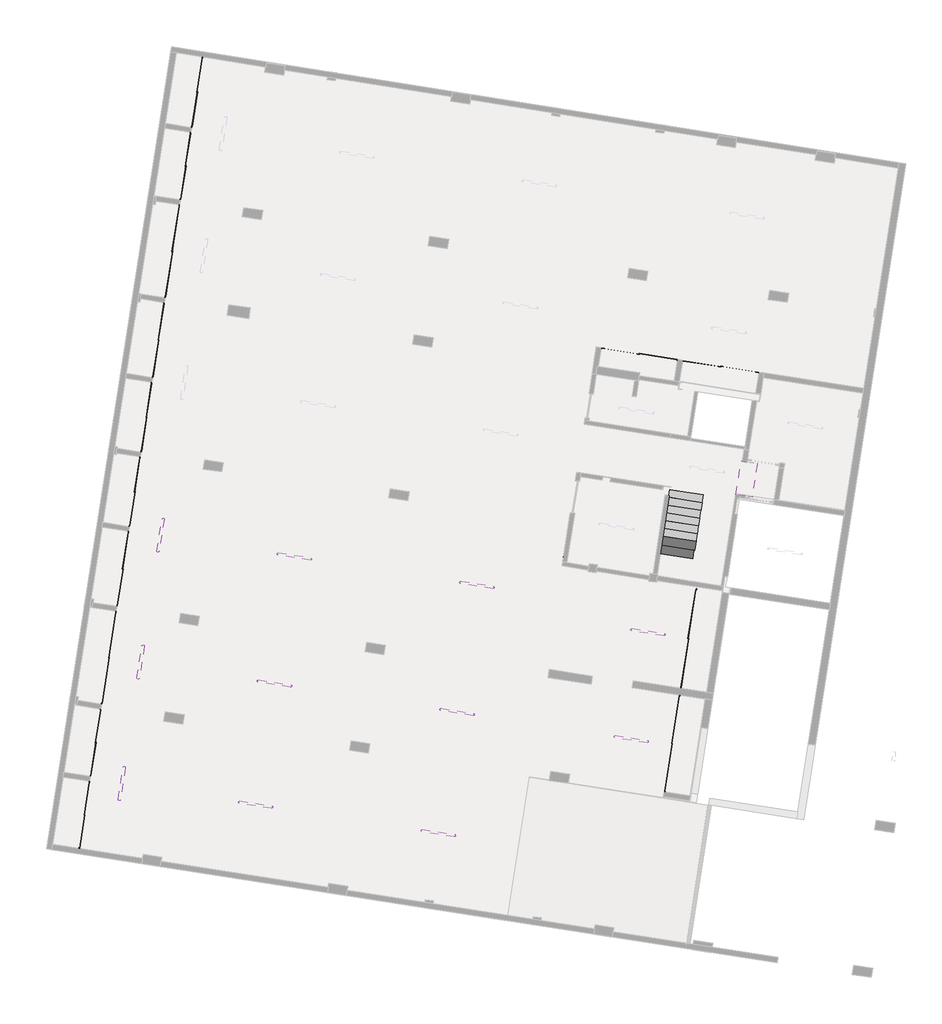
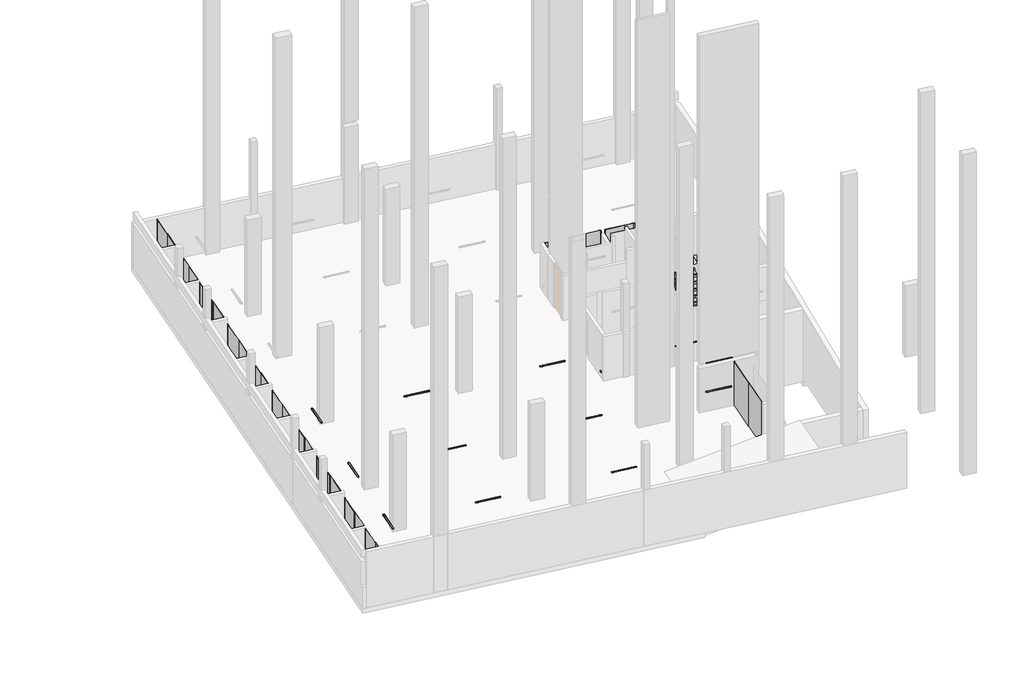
# One storey, part 4 of 5: 14 furniture elements, 11 light fixtures, 2 stair flights, 1 proxy.
"""IFC4 building model written with IfcOpenShell, lengths in millimetres."""

from ifc_helpers import new_model, si_unit, origin, place, context, project, spatial, faceted_brep, transform, mapped, element, save
from components import contacto_exterior_doble_contacto_3b9dc114, phl_2_st_2_c3c2574e, pcl9_5e3e3e72, phl_4_st_2_7a90008c, pcl7_e5fcf431, phl_6_st_2_9932728b, phl_7_e46b9a9d, phl_8_st_2_415c95a6, phl_9_st_2_81f4c3ad, light_fixture_530e717e

model = new_model("IFC4")

# Units and contexts
model_context = context("Model", 3, world=origin())
ifc_project = project(units=[si_unit("LENGTHUNIT", "METRE", prefix="MILLI")], contexts=[model_context])

# Site, building, storey
site = spatial("IfcSite", under=ifc_project)
building = spatial("IfcBuilding", under=site)
storey = spatial("IfcBuildingStorey", under=building, Name="SÓTANO 2", Elevation=-5800.0)

# Proxy
placement = place(None, origin())
contacto_exterior_doble_contacto_shape = contacto_exterior_doble_contacto_3b9dc114(model_context)
element("IfcBuildingElementProxy", 1, Name="Contacto exterior doble : Contacto", ObjectType="Contacto exterior doble : Contacto", at=placement, inside=storey, context=model_context, shape_type="MappedRepresentation", body=[
    mapped(contacto_exterior_doble_contacto_shape, transform((-36829.5374354, -68623.7162609, -5800.0), x_axis=(0.15400987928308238, 0.9880693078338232, 0.0), y_axis=(-0.9880693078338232, 0.15400987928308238, 0.0), z_axis=(0.0, 0.0, 1.0))),
])

# Furniture
phl_2_st_2_shape = phl_2_st_2_c3c2574e(model_context)
element("IfcFurniture", 2, ObjectType="Puerta Closet corre 2 hojas : PHL-2/ST-2", at=placement, inside=storey, context=model_context, shape_type="MappedRepresentation", body=[
    mapped(phl_2_st_2_shape, transform((-52010.2510819, -60991.7202905, -5800.0), x_axis=(-0.15400987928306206, -0.9880693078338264, 0.0), y_axis=(0.9880693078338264, -0.15400987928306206, 0.0), z_axis=(0.0, 0.0, 1.0))),
])
element("IfcFurniture", 3, ObjectType="Puerta Closet corre 2 hojas : PHL-2/ST-2", at=placement, inside=storey, context=model_context, shape_type="MappedRepresentation", body=[
    mapped(phl_2_st_2_shape, transform((-53326.9525465, -69439.1803551, -5800.0), x_axis=(-0.15400987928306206, -0.9880693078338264, 0.0), y_axis=(0.9880693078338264, -0.15400987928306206, 0.0), z_axis=(0.0, 0.0, 1.0))),
])
pcl9_shape = pcl9_5e3e3e72(model_context)
element("IfcFurniture", 4, ObjectType="Puerta Closet corre 2 hojas : PHL-3 ST-2", at=placement, inside=storey, context=model_context, shape_type="MappedRepresentation", body=[
    mapped(pcl9_shape, transform((-52454.1638054, -63839.696924, -5800.0), x_axis=(-0.15400987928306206, -0.9880693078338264, 0.0), y_axis=(0.9880693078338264, -0.15400987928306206, 0.0), z_axis=(0.0, 0.0, 1.0))),
])
element("IfcFurniture", 5, ObjectType="Puerta Closet corre 2 hojas : PHL-3 ST-2", at=placement, inside=storey, context=model_context, shape_type="MappedRepresentation", body=[
    mapped(pcl9_shape, transform((-52882.6755483, -66588.866673, -5800.0), x_axis=(-0.15400987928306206, -0.9880693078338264, 0.0), y_axis=(0.9880693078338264, -0.15400987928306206, 0.0), z_axis=(0.0, 0.0, 1.0))),
])
phl_4_st_2_shape = phl_4_st_2_7a90008c(model_context)
element("IfcFurniture", 6, ObjectType="Puerta Closet corre 2 hojas : PHL-4/ST-2", at=placement, inside=storey, context=model_context, shape_type="MappedRepresentation", body=[
    mapped(phl_4_st_2_shape, transform((-51499.708332, -57716.270535, -5800.0), x_axis=(-0.15400987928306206, -0.9880693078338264, 0.0), y_axis=(0.9880693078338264, -0.15400987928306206, 0.0), z_axis=(0.0, 0.0, 1.0))),
])
element("IfcFurniture", 7, ObjectType="Puerta Closet corre 2 hojas : PHL-4/ST-2", at=placement, inside=storey, context=model_context, shape_type="MappedRepresentation", body=[
    mapped(phl_4_st_2_shape, transform((-53837.4952963, -72714.6301106, -5800.0), x_axis=(-0.15400987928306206, -0.9880693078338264, 0.0), y_axis=(0.9880693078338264, -0.15400987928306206, 0.0), z_axis=(0.0, 0.0, 1.0))),
])
pcl7_shape = pcl7_e5fcf431(model_context)
element("IfcFurniture", 8, ObjectType="Puerta Closet corre 2 hojas : PHL-5 /ST-2", at=placement, inside=storey, context=model_context, shape_type="MappedRepresentation", body=[
    mapped(pcl7_shape, transform((-54326.4766633, -75851.7501646, -5800.0), x_axis=(-0.15400987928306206, -0.9880693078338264, 0.0), y_axis=(0.9880693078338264, -0.15400987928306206, 0.0), z_axis=(0.0, 0.0, 1.0))),
])
element("IfcFurniture", 9, ObjectType="Puerta Closet corre 2 hojas : PHL-5 /ST-2", at=placement, inside=storey, context=model_context, shape_type="MappedRepresentation", body=[
    mapped(pcl7_shape, transform((-54742.3033431, -78519.5373327, -5800.0), x_axis=(-0.15400987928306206, -0.9880693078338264, 0.0), y_axis=(0.9880693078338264, -0.15400987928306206, 0.0), z_axis=(0.0, 0.0, 1.0))),
])
element("IfcFurniture", 10, ObjectType="Puerta Closet corre 2 hojas : PHL-5 /ST-2", at=placement, inside=storey, context=model_context, shape_type="MappedRepresentation", body=[
    mapped(pcl7_shape, transform((-51010.7269667, -54579.1504917, -5800.0), x_axis=(-0.15400987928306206, -0.9880693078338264, 0.0), y_axis=(0.9880693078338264, -0.15400987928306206, 0.0), z_axis=(0.0, 0.0, 1.0))),
])
phl_6_st_2_shape = phl_6_st_2_9932728b(model_context)
element("IfcFurniture", 11, ObjectType="Puerta Closet corre 2 hojas : PHL-6/ST-2", at=placement, inside=storey, context=model_context, shape_type="MappedRepresentation", body=[
    mapped(phl_6_st_2_shape, transform((-50585.8060093, -51853.0178679, -5800.0), x_axis=(-0.15400987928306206, -0.9880693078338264, 0.0), y_axis=(0.9880693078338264, -0.15400987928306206, 0.0), z_axis=(0.0, 0.0, 1.0))),
])
phl_7_shape = phl_7_e46b9a9d(model_context)
element("IfcFurniture", 12, ObjectType="Puerta Closet corre 2 hojas : PHL-7/ST-2", at=placement, inside=storey, context=model_context, shape_type="MappedRepresentation", body=[
    mapped(phl_7_shape, transform((-32096.4216525, -70972.1816689, -5800.0), x_axis=(0.15400987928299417, 0.9880693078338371, 0.0), y_axis=(-0.9880693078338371, 0.15400987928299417, 0.0), z_axis=(0.0, 0.0, 1.0))),
])
phl_8_st_2_shape = phl_8_st_2_415c95a6(model_context)
element("IfcFurniture", 13, ObjectType="Puerta Closet corre 2 hojas : PHL-8/ST-2", at=placement, inside=storey, context=model_context, shape_type="MappedRepresentation", body=[
    mapped(phl_8_st_2_shape, transform((-32699.3703338, -74840.4730914, -5800.0), x_axis=(0.1540098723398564, 0.9880693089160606, 0.0), y_axis=(-0.9880693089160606, 0.1540098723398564, 0.0), z_axis=(0.0, 0.0, 1.0))),
])
phl_9_st_2_shape = phl_9_st_2_81f4c3ad(model_context)
element("IfcFurniture", 14, ObjectType="Puerta Closet corre 2 hojas : PHL-9/ST-2", at=placement, inside=storey, context=model_context, shape_type="MappedRepresentation", body=[
    mapped(phl_9_st_2_shape, transform((-33567.2932005, -61167.5490875, -5800.0), x_axis=(0.988069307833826, -0.1540098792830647, 0.0), y_axis=(0.1540098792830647, 0.988069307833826, 0.0), z_axis=(0.0, 0.0, 1.0))),
])
element("IfcFurniture", 15, ObjectType="Puerta Closet corre 2 hojas : PHL-9/ST-2", at=placement, inside=storey, context=model_context, shape_type="MappedRepresentation", body=[
    mapped(phl_9_st_2_shape, transform((-30563.5625047, -61635.7391205, -5800.0), x_axis=(0.988069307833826, -0.1540098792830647, 0.0), y_axis=(0.1540098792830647, 0.988069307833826, 0.0), z_axis=(0.0, 0.0, 1.0))),
])

# Light fixtures
light_fixture_shape = light_fixture_530e717e(model_context)
element("IfcLightFixture", 16, ObjectType="Lumin techo_fluorescente : Luminarias bajo locales", at=placement, inside=storey, context=model_context, shape_type="MappedRepresentation", body=[
    mapped(light_fixture_shape, transform((-40079.8659185, -69510.3464703, -5090.0), x_axis=(-0.9880693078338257, 0.1540098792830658, 0.0), y_axis=(-0.15400987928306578, -0.9880693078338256, 0.0), z_axis=(0.0, 0.0, 0.9999999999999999))),
])
element("IfcLightFixture", 17, ObjectType="Lumin techo_fluorescente : Luminarias bajo locales", at=placement, inside=storey, context=model_context, shape_type="MappedRepresentation", body=[
    mapped(light_fixture_shape, transform((-40810.6220299, -74198.6021102, -5090.0), x_axis=(-0.9880693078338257, 0.1540098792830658, 0.0), y_axis=(-0.15400987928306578, -0.9880693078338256, 0.0), z_axis=(0.0, 0.0, 0.9999999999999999))),
])
element("IfcLightFixture", 18, ObjectType="Lumin techo_fluorescente : Luminarias bajo locales", at=placement, inside=storey, context=model_context, shape_type="MappedRepresentation", body=[
    mapped(light_fixture_shape, transform((-41507.5167338, -78669.6157291, -5090.0), x_axis=(-0.9880693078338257, 0.1540098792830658, 0.0), y_axis=(-0.15400987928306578, -0.9880693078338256, 0.0), z_axis=(0.0, 0.0, 0.9999999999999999))),
])
element("IfcLightFixture", 19, ObjectType="Lumin techo_fluorescente : Luminarias bajo locales", at=placement, inside=storey, context=model_context, shape_type="MappedRepresentation", body=[
    mapped(light_fixture_shape, transform((-46818.4985972, -68459.9990937, -5090.0), x_axis=(-0.9880693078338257, 0.1540098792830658, 0.0), y_axis=(-0.15400987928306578, -0.9880693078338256, 0.0), z_axis=(0.0, 0.0, 0.9999999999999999))),
])
element("IfcLightFixture", 20, ObjectType="Lumin techo_fluorescente : Luminarias bajo locales", at=placement, inside=storey, context=model_context, shape_type="MappedRepresentation", body=[
    mapped(light_fixture_shape, transform((-47549.2547086, -73148.2547336, -5090.0), x_axis=(-0.9880693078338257, 0.1540098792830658, 0.0), y_axis=(-0.15400987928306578, -0.9880693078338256, 0.0), z_axis=(0.0, 0.0, 0.9999999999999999))),
])
element("IfcLightFixture", 21, ObjectType="Lumin techo_fluorescente : Luminarias bajo locales", at=placement, inside=storey, context=model_context, shape_type="MappedRepresentation", body=[
    mapped(light_fixture_shape, transform((-48246.1494125, -77619.2683526, -5090.0), x_axis=(-0.9880693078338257, 0.1540098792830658, 0.0), y_axis=(-0.15400987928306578, -0.9880693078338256, 0.0), z_axis=(0.0, 0.0, 0.9999999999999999))),
])
element("IfcLightFixture", 22, ObjectType="Lumin techo_fluorescente : Luminarias bajo locales", at=placement, inside=storey, context=model_context, shape_type="MappedRepresentation", body=[
    mapped(light_fixture_shape, transform((-33773.2870938, -71254.7996966, -5090.0), x_axis=(-0.9880693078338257, 0.1540098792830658, 0.0), y_axis=(-0.15400987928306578, -0.9880693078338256, 0.0), z_axis=(0.0, 0.0, 0.9999999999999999))),
])
element("IfcLightFixture", 23, ObjectType="Lumin techo_fluorescente : Luminarias bajo locales", at=placement, inside=storey, context=model_context, shape_type="MappedRepresentation", body=[
    mapped(light_fixture_shape, transform((-34388.1715283, -75199.6663257, -5090.0), x_axis=(-0.9880693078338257, 0.1540098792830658, 0.0), y_axis=(-0.15400987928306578, -0.9880693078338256, 0.0), z_axis=(0.0, 0.0, 0.9999999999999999))),
])
element("IfcLightFixture", 24, ObjectType="Lumin techo_fluorescente : Luminarias bajo locales", at=placement, inside=storey, context=model_context, shape_type="MappedRepresentation", body=[
    mapped(light_fixture_shape, transform((-51756.5349876, -67675.1286578, -5090.0), x_axis=(-0.15400987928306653, -0.9880693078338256, 0.0), y_axis=(0.9880693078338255, -0.1540098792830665, 0.0), z_axis=(0.0, 0.0, 0.9999999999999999))),
])
element("IfcLightFixture", 25, ObjectType="Lumin techo_fluorescente : Luminarias bajo locales", at=placement, inside=storey, context=model_context, shape_type="MappedRepresentation", body=[
    mapped(light_fixture_shape, transform((-52486.5210495, -72358.4439511, -5090.0), x_axis=(-0.15400987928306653, -0.9880693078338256, 0.0), y_axis=(0.9880693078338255, -0.1540098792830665, 0.0), z_axis=(0.0, 0.0, 0.9999999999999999))),
])
element("IfcLightFixture", 26, ObjectType="Lumin techo_fluorescente : Luminarias bajo locales", at=placement, inside=storey, context=model_context, shape_type="MappedRepresentation", body=[
    mapped(light_fixture_shape, transform((-53184.1858028, -76834.3979166, -5090.0), x_axis=(-0.15400987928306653, -0.9880693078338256, 0.0), y_axis=(0.9880693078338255, -0.1540098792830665, 0.0), z_axis=(0.0, 0.0, 0.9999999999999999))),
])

# Stair flights
element("IfcStairFlight", 27, ObjectType="Huellas: 40 mm Mamperlanes: 30 mm Contrahuellas: 15 mm", at=placement, inside=storey, context=model_context, shape_type="Brep", body=[
    faceted_brep([(-31808.8960721, -66508.6466005, -5665.0), (-31764.2332071, -66222.1065012, -5665.0), (-32949.9163765, -66037.2946461, -5665.0), (-32994.5792415, -66323.8347454, -5665.0), (-31808.8960721, -66508.6466005, -5800.0), (-31764.2332071, -66222.1065012, -5800.0), (-32949.9163765, -66037.2946461, -5800.0), (-32994.5792415, -66323.8347454, -5800.0), (-31853.5589371, -66795.1866998, -5490.0), (-31808.8960721, -66508.6466005, -5490.0), (-32994.5792415, -66323.8347454, -5490.0), (-33039.2421065, -66610.3748446, -5490.0), (-31853.5589371, -66795.1866998, -5665.1952368), (-31819.1545546, -66574.4611556, -5800.0), (-33004.837724, -66389.6493004, -5800.0), (-33039.2421065, -66610.3748446, -5665.1952368), (-31898.2218021, -67081.726799, -5315.0), (-31853.5589371, -66795.1866998, -5315.0), (-33039.2421065, -66610.3748446, -5315.0), (-33083.9049715, -66896.9149439, -5315.0), (-31898.2218021, -67081.726799, -5490.1952368), (-33083.9049715, -66896.9149439, -5490.1952368), (-31942.8846671, -67368.2668983, -5140.0), (-31898.2218021, -67081.726799, -5140.0), (-33083.9049715, -66896.9149439, -5140.0), (-33128.5678365, -67183.4550432, -5140.0), (-31942.8846671, -67368.2668983, -5315.1952368), (-33128.5678365, -67183.4550432, -5315.1952368), (-31987.5475321, -67654.8069976, -4965.0), (-31942.8846671, -67368.2668983, -4965.0), (-33128.5678365, -67183.4550432, -4965.0), (-33173.2307015, -67469.9951424, -4965.0), (-31987.5475321, -67654.8069976, -5140.1952368), (-33173.2307015, -67469.9951424, -5140.1952368), (-32032.2103971, -67941.3470969, -4790.0), (-31987.5475321, -67654.8069976, -4790.0), (-33173.2307015, -67469.9951424, -4790.0), (-33217.8935665, -67756.5352417, -4790.0), (-32032.2103971, -67941.3470969, -4965.1952368), (-33217.8935665, -67756.5352417, -4965.1952368), (-32076.8732621, -68227.8871961, -4615.0), (-32032.2103971, -67941.3470969, -4615.0), (-33217.8935665, -67756.5352417, -4615.0), (-33256.3960363, -68003.5525687, -4615.0), (-33262.5564315, -68043.075341, -4615.0), (-32076.8732621, -68227.8871961, -4790.1952368), (-33256.3960363, -68003.5525687, -4814.3331678), (-32005.2682968, -68158.0822468, -4440.0), (-32019.8320539, -68251.5178209, -4440.0), (-32079.1162289, -68242.2772255, -4440.0), (-32076.8732621, -68227.8871961, -4440.0), (-33262.5564315, -68043.075341, -4440.0), (-33313.6495334, -68370.8694154, -4440.0), (-33449.6112535, -69243.1485398, -4440.0), (-31018.9607397, -69622.0128454, -4440.0), (-30825.7455225, -68382.4168743, -4440.0), (-30819.5851273, -68342.894102, -4440.0), (-32005.2682968, -68158.0822468, -4590.0), (-32019.8320539, -68251.5178209, -4590.0), (-32079.1162289, -68242.2772255, -4590.0), (-33262.5564315, -68043.075341, -4790.1952368), (-33313.6495334, -68370.8694154, -4590.0), (-33449.6112535, -69243.1485398, -4590.0), (-32005.2682968, -68158.0822468, -4265.0), (-30819.5851273, -68342.894102, -4265.0), (-30813.1548904, -68301.6401269, -4265.0), (-30774.9222624, -68056.3540027, -4265.0), (-31960.6054318, -67871.5421476, -4265.0), (-31998.8380598, -68116.8282717, -4265.0), (-31960.6054318, -67871.5421476, -4440.1952368), (-31998.8380598, -68116.8282717, -4590.0), (-31915.9425668, -67585.0020483, -4090.0), (-31960.6054318, -67871.5421476, -4090.0), (-30774.9222624, -68056.3540027, -4090.0), (-30730.2593974, -67769.8139034, -4090.0), (-31915.9425668, -67585.0020483, -4265.1952368), (-30774.9222624, -68056.3540027, -4440.1952368), (-30730.2593974, -67769.8139034, -4265.1952368), (-31871.2797018, -67298.461949, -3915.0), (-31915.9425668, -67585.0020483, -3915.0), (-30730.2593974, -67769.8139034, -3915.0), (-30685.5965324, -67483.2738042, -3915.0), (-31871.2797018, -67298.461949, -4090.1952368), (-30685.5965324, -67483.2738042, -4090.1952368), (-31826.6168368, -67011.9218497, -3740.0), (-31871.2797018, -67298.461949, -3740.0), (-30685.5965324, -67483.2738042, -3740.0), (-30640.9336674, -67196.7337049, -3740.0), (-31826.6168368, -67011.9218497, -3915.1952368), (-30640.9336674, -67196.7337049, -3915.1952368), (-31781.9539718, -66725.3817505, -3565.0), (-31826.6168368, -67011.9218497, -3565.0), (-30640.9336674, -67196.7337049, -3565.0), (-30596.2708024, -66910.1936056, -3565.0), (-31781.9539718, -66725.3817505, -3740.1952368), (-30596.2708024, -66910.1936056, -3740.1952368), (-31737.2911068, -66438.8416512, -3390.0), (-31781.9539718, -66725.3817505, -3390.0), (-30596.2708024, -66910.1936056, -3390.0), (-30551.6079374, -66623.6535063, -3390.0), (-31737.2911068, -66438.8416512, -3565.1952368), (-30551.6079374, -66623.6535063, -3565.1952368), (-31692.6282418, -66152.3015519, -3215.0), (-31737.2911068, -66438.8416512, -3215.0), (-30551.6079374, -66623.6535063, -3215.0), (-30506.9450724, -66337.1134071, -3215.0), (-31692.6282418, -66152.3015519, -3390.1952368), (-30506.9450724, -66337.1134071, -3390.1952368), (-32127.966364, -68555.6812705, -4590.0), (-30813.1548904, -68301.6401269, -4590.0), (-30819.5851273, -68342.894102, -4590.0), (-30825.7455225, -68382.4168743, -4590.0), (-31018.9607397, -69622.0128454, -4590.0)], [[[0, 1, 2, 3]], [[1, 0, 4, 5]], [[2, 1, 5, 6]], [[3, 2, 6, 7]], [[8, 9, 10, 11]], [[4, 0, 9, 8, 12, 13]], [[0, 3, 10, 9]], [[3, 7, 14, 15, 11, 10]], [[16, 17, 18, 19]], [[17, 16, 20, 12, 8]], [[8, 11, 18, 17]], [[19, 18, 11, 15, 21]], [[22, 23, 24, 25]], [[23, 22, 26, 20, 16]], [[16, 19, 24, 23]], [[25, 24, 19, 21, 27]], [[28, 29, 30, 31]], [[29, 28, 32, 26, 22]], [[22, 25, 30, 29]], [[31, 30, 25, 27, 33]], [[34, 35, 36, 37]], [[35, 34, 38, 32, 28]], [[28, 31, 36, 35]], [[37, 36, 31, 33, 39]], [[40, 41, 42, 43, 44]], [[41, 40, 45, 38, 34]], [[34, 37, 42, 41]], [[43, 42, 37, 39, 46]], [[47, 48, 49, 50, 51, 52, 53, 54, 55, 56]], [[48, 47, 57, 58]], [[49, 48, 58, 59]], [[40, 44, 51, 50]], [[51, 44, 60, 61, 62, 53, 52]], [[63, 64, 65, 66, 67, 68]], [[47, 63, 68, 67, 69, 70, 57]], [[47, 56, 64, 63]], [[71, 72, 73, 74]], [[72, 71, 75, 69, 67]], [[67, 66, 73, 72]], [[74, 73, 66, 76, 77]], [[78, 79, 80, 81]], [[79, 78, 82, 75, 71]], [[71, 74, 80, 79]], [[81, 80, 74, 77, 83]], [[84, 85, 86, 87]], [[85, 84, 88, 82, 78]], [[78, 81, 86, 85]], [[87, 86, 81, 83, 89]], [[90, 91, 92, 93]], [[91, 90, 94, 88, 84]], [[84, 87, 92, 91]], [[93, 92, 87, 89, 95]], [[96, 97, 98, 99]], [[97, 96, 100, 94, 90]], [[90, 93, 98, 97]], [[99, 98, 93, 95, 101]], [[102, 103, 104, 105]], [[103, 102, 106, 100, 96]], [[96, 99, 104, 103]], [[105, 104, 99, 101, 107]], [[102, 105, 107, 106]], [[5, 4, 13, 14, 7, 6]], [[45, 108, 61, 60, 46, 39, 33, 27, 21, 15, 14, 13, 12, 20, 26, 32, 38]], [[61, 108, 59, 58, 57, 70, 109, 110, 111, 112, 62]], [[109, 70, 69, 75, 82, 88, 94, 100, 106, 107, 101, 95, 89, 83, 77, 76]], [[54, 53, 62, 112]], [[50, 49, 59, 108, 45, 40]], [[55, 54, 112, 111]], [[64, 56, 110, 109, 76, 66, 65]], [[44, 43, 46, 60]], [[56, 55, 111, 110]]]),
    faceted_brep([(-31779.2539929, -66513.2668969, -5625.0), (-31728.4307327, -66187.2040253, -5625.0), (-32973.3980606, -65993.1515774, -5625.0), (-33024.2213208, -66319.214449, -5625.0), (-33001.4957267, -66322.7566762, -5665.0), (-32954.2146938, -66019.4193987, -5665.0), (-31754.698554, -66206.3873921, -5665.0), (-31801.979587, -66509.7246697, -5665.0), (-33024.2213208, -66319.214449, -5675.0), (-33001.4957267, -66322.7566762, -5675.0), (-31801.979587, -66509.7246697, -5675.0), (-31779.2539929, -66513.2668969, -5675.0), (-32973.3980606, -65993.1515774, -5675.0), (-32954.2146938, -66019.4193987, -5675.0), (-31728.4307327, -66187.2040253, -5675.0), (-31754.698554, -66206.3873921, -5675.0)], [[[0, 1, 2, 3]], [[4, 5, 6, 7]], [[0, 3, 8, 9, 4, 7, 10, 11]], [[8, 3, 2, 12]], [[9, 8, 12, 13]], [[4, 9, 13, 5]], [[12, 2, 1, 14]], [[13, 12, 14, 15]], [[5, 13, 15, 6]], [[14, 1, 0, 11]], [[15, 14, 11, 10]], [[6, 15, 10, 7]]]),
    faceted_brep([(-32943.7559814, -65997.7718738, -5675.0), (-32943.7559814, -65997.7718738, -5800.0), (-32949.9163765, -66037.2946461, -5800.0), (-32949.9163765, -66037.2946461, -5675.0), (-31758.072812, -66182.5837289, -5675.0), (-31764.2332071, -66222.1065012, -5675.0), (-31764.2332071, -66222.1065012, -5800.0), (-31758.072812, -66182.5837289, -5800.0)], [[[0, 1, 2, 3]], [[4, 5, 6, 7]], [[1, 0, 4, 7]], [[2, 1, 7, 6]], [[3, 2, 6, 5]], [[0, 3, 5, 4]]]),
    faceted_brep([(-31823.9168579, -66799.8069961, -5450.0), (-31773.0935977, -66473.7441246, -5450.0), (-33018.0609256, -66279.6916767, -5450.0), (-33068.8841858, -66605.7545483, -5450.0), (-33046.1585917, -66609.2967755, -5490.0), (-32998.8775587, -66305.959498, -5490.0), (-31799.361419, -66492.9274914, -5490.0), (-31846.642452, -66796.2647689, -5490.0), (-33068.8841858, -66605.7545483, -5500.0), (-33046.1585917, -66609.2967755, -5500.0), (-31846.642452, -66796.2647689, -5500.0), (-31823.9168579, -66799.8069961, -5500.0), (-33018.0609256, -66279.6916767, -5500.0), (-32998.8775587, -66305.959498, -5500.0), (-31773.0935977, -66473.7441246, -5500.0), (-31799.361419, -66492.9274914, -5500.0)], [[[0, 1, 2, 3]], [[4, 5, 6, 7]], [[0, 3, 8, 9, 4, 7, 10, 11]], [[8, 3, 2, 12]], [[9, 8, 12, 13]], [[4, 9, 13, 5]], [[12, 2, 1, 14]], [[13, 12, 14, 15]], [[5, 13, 15, 6]], [[14, 1, 0, 11]], [[15, 14, 11, 10]], [[6, 15, 10, 7]]]),
    faceted_brep([(-32988.4188464, -66284.311973, -5500.0), (-32988.4188464, -66284.311973, -5625.0), (-32994.5792415, -66323.8347454, -5625.0), (-32994.5792415, -66323.8347454, -5500.0), (-31802.735677, -66469.1238282, -5500.0), (-31808.8960721, -66508.6466005, -5500.0), (-31808.8960721, -66508.6466005, -5625.0), (-31802.735677, -66469.1238282, -5625.0)], [[[0, 1, 2, 3]], [[4, 5, 6, 7]], [[1, 0, 4, 7]], [[2, 1, 7, 6]], [[3, 2, 6, 5]], [[0, 3, 5, 4]]]),
    faceted_brep([(-31868.5797229, -67086.3470954, -5275.0), (-31817.7564627, -66760.2842238, -5275.0), (-33062.7237906, -66566.2317759, -5275.0), (-33113.5470508, -66892.2946475, -5275.0), (-33090.8214567, -66895.8368747, -5315.0), (-33043.5404237, -66592.4995972, -5315.0), (-31844.024284, -66779.4675907, -5315.0), (-31891.305317, -67082.8048682, -5315.0), (-33113.5470508, -66892.2946475, -5325.0), (-33090.8214567, -66895.8368747, -5325.0), (-31891.305317, -67082.8048682, -5325.0), (-31868.5797229, -67086.3470954, -5325.0), (-33062.7237906, -66566.2317759, -5325.0), (-33043.5404237, -66592.4995972, -5325.0), (-31817.7564627, -66760.2842238, -5325.0), (-31844.024284, -66779.4675907, -5325.0)], [[[0, 1, 2, 3]], [[4, 5, 6, 7]], [[0, 3, 8, 9, 4, 7, 10, 11]], [[8, 3, 2, 12]], [[9, 8, 12, 13]], [[4, 9, 13, 5]], [[12, 2, 1, 14]], [[13, 12, 14, 15]], [[5, 13, 15, 6]], [[14, 1, 0, 11]], [[15, 14, 11, 10]], [[6, 15, 10, 7]]]),
    faceted_brep([(-33033.0817114, -66570.8520723, -5325.0), (-33033.0817114, -66570.8520723, -5450.0), (-33039.2421065, -66610.3748446, -5450.0), (-33039.2421065, -66610.3748446, -5325.0), (-31847.398542, -66755.6639275, -5325.0), (-31853.5589371, -66795.1866998, -5325.0), (-31853.5589371, -66795.1866998, -5450.0), (-31847.398542, -66755.6639275, -5450.0)], [[[0, 1, 2, 3]], [[4, 5, 6, 7]], [[1, 0, 4, 7]], [[2, 1, 7, 6]], [[3, 2, 6, 5]], [[0, 3, 5, 4]]]),
    faceted_brep([(-31913.2425879, -67372.8871947, -5100.0), (-31862.4193277, -67046.8243231, -5100.0), (-33107.3866556, -66852.7718752, -5100.0), (-33158.2099158, -67178.8347468, -5100.0), (-33135.4843217, -67182.376974, -5140.0), (-33088.2032887, -66879.0396965, -5140.0), (-31888.687149, -67066.00769, -5140.0), (-31935.968182, -67369.3449675, -5140.0), (-33158.2099158, -67178.8347468, -5150.0), (-33135.4843217, -67182.376974, -5150.0), (-31935.968182, -67369.3449675, -5150.0), (-31913.2425879, -67372.8871947, -5150.0), (-33107.3866556, -66852.7718752, -5150.0), (-33088.2032887, -66879.0396965, -5150.0), (-31862.4193277, -67046.8243231, -5150.0), (-31888.687149, -67066.00769, -5150.0)], [[[0, 1, 2, 3]], [[4, 5, 6, 7]], [[0, 3, 8, 9, 4, 7, 10, 11]], [[8, 3, 2, 12]], [[9, 8, 12, 13]], [[4, 9, 13, 5]], [[12, 2, 1, 14]], [[13, 12, 14, 15]], [[5, 13, 15, 6]], [[14, 1, 0, 11]], [[15, 14, 11, 10]], [[6, 15, 10, 7]]]),
    faceted_brep([(-33077.7445764, -66857.3921716, -5150.0), (-33077.7445764, -66857.3921716, -5275.0), (-33083.9049715, -66896.9149439, -5275.0), (-33083.9049715, -66896.9149439, -5150.0), (-31892.061407, -67042.2040267, -5150.0), (-31898.2218021, -67081.726799, -5150.0), (-31898.2218021, -67081.726799, -5275.0), (-31892.061407, -67042.2040267, -5275.0)], [[[0, 1, 2, 3]], [[4, 5, 6, 7]], [[1, 0, 4, 7]], [[2, 1, 7, 6]], [[3, 2, 6, 5]], [[0, 3, 5, 4]]]),
    faceted_brep([(-31957.9054529, -67659.427294, -4925.0), (-31907.0821927, -67333.3644224, -4925.0), (-33152.0495206, -67139.3119745, -4925.0), (-33202.8727807, -67465.3748461, -4925.0), (-33180.1471867, -67468.9170733, -4965.0), (-33132.8661537, -67165.5797958, -4965.0), (-31933.350014, -67352.5477892, -4965.0), (-31980.631047, -67655.8850667, -4965.0), (-33202.8727807, -67465.3748461, -4975.0), (-33180.1471867, -67468.9170733, -4975.0), (-31980.631047, -67655.8850667, -4975.0), (-31957.9054529, -67659.427294, -4975.0), (-33152.0495206, -67139.3119745, -4975.0), (-33132.8661537, -67165.5797958, -4975.0), (-31907.0821927, -67333.3644224, -4975.0), (-31933.350014, -67352.5477892, -4975.0)], [[[0, 1, 2, 3]], [[4, 5, 6, 7]], [[0, 3, 8, 9, 4, 7, 10, 11]], [[8, 3, 2, 12]], [[9, 8, 12, 13]], [[4, 9, 13, 5]], [[12, 2, 1, 14]], [[13, 12, 14, 15]], [[5, 13, 15, 6]], [[14, 1, 0, 11]], [[15, 14, 11, 10]], [[6, 15, 10, 7]]]),
    faceted_brep([(-33122.4074413, -67143.9322709, -4975.0), (-33122.4074413, -67143.9322709, -5100.0), (-33128.5678365, -67183.4550432, -5100.0), (-33128.5678365, -67183.4550432, -4975.0), (-31936.7242719, -67328.744126, -4975.0), (-31942.8846671, -67368.2668983, -4975.0), (-31942.8846671, -67368.2668983, -5100.0), (-31936.7242719, -67328.744126, -5100.0)], [[[0, 1, 2, 3]], [[4, 5, 6, 7]], [[1, 0, 4, 7]], [[2, 1, 7, 6]], [[3, 2, 6, 5]], [[0, 3, 5, 4]]]),
    faceted_brep([(-32002.5683179, -67945.9673932, -4750.0), (-31951.7450577, -67619.9045217, -4750.0), (-33196.7123856, -67425.8520738, -4750.0), (-33247.5356457, -67751.9149453, -4750.0), (-33224.8100517, -67755.4571726, -4790.0), (-33177.5290187, -67452.1198951, -4790.0), (-31978.012879, -67639.0878885, -4790.0), (-32025.2939119, -67942.425166, -4790.0), (-33247.5356457, -67751.9149453, -4800.0), (-33224.8100517, -67755.4571726, -4800.0), (-32025.2939119, -67942.425166, -4800.0), (-32002.5683179, -67945.9673932, -4800.0), (-33196.7123856, -67425.8520738, -4800.0), (-33177.5290187, -67452.1198951, -4800.0), (-31951.7450577, -67619.9045217, -4800.0), (-31978.012879, -67639.0878885, -4800.0)], [[[0, 1, 2, 3]], [[4, 5, 6, 7]], [[0, 3, 8, 9, 4, 7, 10, 11]], [[8, 3, 2, 12]], [[9, 8, 12, 13]], [[4, 9, 13, 5]], [[12, 2, 1, 14]], [[13, 12, 14, 15]], [[5, 13, 15, 6]], [[14, 1, 0, 11]], [[15, 14, 11, 10]], [[6, 15, 10, 7]]]),
    faceted_brep([(-33167.0703063, -67430.4723701, -4800.0), (-33167.0703063, -67430.4723701, -4925.0), (-33173.2307015, -67469.9951424, -4925.0), (-33173.2307015, -67469.9951424, -4800.0), (-31981.3871369, -67615.2842253, -4800.0), (-31987.5475321, -67654.8069976, -4800.0), (-31987.5475321, -67654.8069976, -4925.0), (-31981.3871369, -67615.2842253, -4925.0)], [[[0, 1, 2, 3]], [[4, 5, 6, 7]], [[1, 0, 4, 7]], [[2, 1, 7, 6]], [[3, 2, 6, 5]], [[0, 3, 5, 4]]]),
    faceted_brep([(-32047.2311829, -68232.5074925, -4575.0), (-31996.4079227, -67906.4446209, -4575.0), (-33241.3752506, -67712.392173, -4575.0), (-33292.1985107, -68038.4550446, -4575.0), (-33269.4729166, -68041.9972718, -4615.0), (-33222.1918837, -67738.6599943, -4615.0), (-32022.675744, -67925.6279878, -4615.0), (-32069.9567769, -68228.9652653, -4615.0), (-33292.1985107, -68038.4550446, -4625.0), (-33269.4729166, -68041.9972718, -4625.0), (-32069.9567769, -68228.9652653, -4625.0), (-32047.2311829, -68232.5074925, -4625.0), (-33241.3752506, -67712.392173, -4625.0), (-31996.4079227, -67906.4446209, -4625.0), (-33222.1918837, -67738.6599943, -4625.0), (-32022.675744, -67925.6279878, -4625.0)], [[[0, 1, 2, 3]], [[4, 5, 6, 7]], [[0, 3, 8, 9, 4, 7, 10, 11]], [[12, 2, 1, 13]], [[14, 12, 13, 15]], [[5, 14, 15, 6]], [[13, 1, 0, 11]], [[15, 13, 11, 10]], [[6, 15, 10, 7]], [[8, 3, 2, 12]], [[9, 8, 12, 14]], [[4, 9, 14, 5]]]),
    faceted_brep([(-33211.7331713, -67717.0124694, -4625.0), (-33211.7331713, -67717.0124694, -4750.0), (-33217.8935665, -67756.5352417, -4750.0), (-33217.8935665, -67756.5352417, -4625.0), (-32026.0500019, -67901.8243245, -4625.0), (-32032.2103971, -67941.3470969, -4625.0), (-32032.2103971, -67941.3470969, -4750.0), (-32026.0500019, -67901.8243245, -4750.0)], [[[0, 1, 2, 3]], [[4, 5, 6, 7]], [[1, 0, 4, 7]], [[2, 1, 7, 6]], [[3, 2, 6, 5]], [[0, 3, 5, 4]]]),
    faceted_brep([(-33256.3960363, -68003.5525687, -4450.0), (-33256.3960363, -68003.5525687, -4575.0), (-33262.5564315, -68043.075341, -4575.0), (-33262.5564315, -68043.075341, -4450.0), (-32070.7128669, -68188.3644238, -4450.0), (-32076.8732621, -68227.8871961, -4450.0), (-32076.8732621, -68227.8871961, -4575.0), (-32070.7128669, -68188.3644238, -4575.0)], [[[0, 1, 2, 3]], [[4, 5, 6, 7]], [[1, 0, 4, 7]], [[2, 1, 7, 6]], [[3, 2, 6, 5]], [[0, 3, 5, 4]]]),
    faceted_brep([(-33483.8736291, -69268.1703227, -4450.0), (-33483.8736291, -69268.1703227, -4400.0), (-33286.0381156, -67998.9322723, -4400.0), (-33286.0381156, -67998.9322723, -4450.0), (-33457.6058078, -69248.9869558, -4450.0), (-33266.8547487, -68025.2000936, -4450.0), (-33457.6058078, -69248.9869558, -4440.0), (-33266.8547487, -68025.2000936, -4440.0), (-33449.6112535, -69243.1485398, -4440.0), (-33261.0163327, -68033.1946479, -4440.0), (-33449.6112535, -69243.1485398, -4400.0), (-33261.0163327, -68033.1946479, -4400.0), (-32070.7128669, -68188.3644238, -4400.0), (-32070.7128669, -68188.3644238, -4450.0), (-32074.2550941, -68211.0900179, -4450.0), (-32074.2550941, -68211.0900179, -4440.0), (-32075.3331633, -68218.0065031, -4440.0), (-32075.3331633, -68218.0065031, -4400.0), (-30993.9389568, -69656.2752211, -4450.0), (-30993.9389568, -69656.2752211, -4400.0), (-31013.1223237, -69630.0073998, -4450.0), (-31013.1223237, -69630.0073998, -4440.0), (-31018.9607397, -69622.0128454, -4440.0), (-31018.9607397, -69622.0128454, -4400.0), (-30789.9430481, -68347.5143984, -4400.0), (-30789.9430481, -68347.5143984, -4450.0), (-30812.6686422, -68343.9721711, -4450.0), (-30812.6686422, -68343.9721711, -4440.0), (-30819.5851273, -68342.894102, -4440.0), (-30819.5851273, -68342.894102, -4400.0)], [[[0, 1, 2, 3]], [[4, 0, 3, 5]], [[6, 4, 5, 7]], [[8, 6, 7, 9]], [[10, 8, 9, 11]], [[1, 10, 11, 2]], [[3, 2, 12, 13]], [[5, 3, 13, 14]], [[7, 5, 14, 15]], [[9, 7, 15, 16]], [[11, 9, 16, 17]], [[2, 11, 17, 12]], [[18, 19, 1, 0]], [[20, 18, 0, 4]], [[21, 20, 4, 6]], [[22, 21, 6, 8]], [[23, 22, 8, 10]], [[19, 23, 10, 1]], [[24, 25, 26, 27, 28, 29]], [[25, 24, 19, 18]], [[26, 25, 18, 20]], [[27, 26, 20, 21]], [[28, 27, 21, 22]], [[29, 28, 22, 23]], [[24, 29, 23, 19]], [[12, 17, 16, 15, 14, 13]]]),
    faceted_brep([(-32034.910376, -68153.4619505, -4400.0), (-32005.2682968, -68158.0822468, -4400.0), (-32005.2682968, -68158.0822468, -4440.0), (-32012.1847819, -68157.0041777, -4440.0), (-32012.1847819, -68157.0041777, -4450.0), (-32034.910376, -68153.4619505, -4450.0), (-32074.4959325, -68212.6351463, -4450.0), (-32074.4959325, -68212.6351463, -4400.0), (-32044.8538368, -68217.2554453, -4400.0), (-32044.8538368, -68217.2554453, -4450.0), (-32078.0381598, -68235.3607404, -4450.0), (-32025.6704699, -68243.5232666, -4450.0), (-32078.0381598, -68235.3607404, -4440.0), (-32025.6704699, -68243.5232666, -4440.0), (-32079.1162289, -68242.2772255, -4440.0), (-32019.8320539, -68251.5178209, -4440.0), (-32079.1162289, -68242.2772255, -4400.0), (-32019.8320539, -68251.5178209, -4400.0)], [[[0, 1, 2, 3, 4, 5]], [[6, 7, 8, 9]], [[10, 6, 9, 11]], [[12, 10, 11, 13]], [[14, 12, 13, 15]], [[16, 14, 15, 17]], [[7, 16, 17, 8]], [[9, 8, 0, 5]], [[11, 9, 5, 4]], [[13, 11, 4, 3]], [[15, 13, 3, 2]], [[17, 15, 2, 1]], [[8, 17, 1, 0]], [[7, 6, 10, 12, 14, 16]]]),
    faceted_brep([(-32005.2682968, -68158.0822468, -4400.0), (-32019.8320539, -68251.5178209, -4400.0), (-32079.1162289, -68242.2772255, -4400.0), (-32075.3331633, -68218.0065031, -4400.0), (-33261.0163327, -68033.1946479, -4400.0), (-33449.6112535, -69243.1485398, -4400.0), (-31018.9607397, -69622.0128454, -4400.0), (-30825.7455225, -68382.4168743, -4400.0), (-30819.5851273, -68342.894102, -4400.0), (-32005.2682968, -68158.0822468, -4440.0), (-30819.5851273, -68342.894102, -4440.0), (-30825.7455225, -68382.4168743, -4440.0), (-31018.9607397, -69622.0128454, -4440.0), (-33449.6112535, -69243.1485398, -4440.0), (-33261.0163327, -68033.1946479, -4440.0), (-32075.3331633, -68218.0065031, -4440.0), (-32079.1162289, -68242.2772255, -4440.0), (-32019.8320539, -68251.5178209, -4440.0)], [[[0, 1, 2, 3, 4, 5, 6, 7, 8]], [[9, 10, 11, 12, 13, 14, 15, 16, 17]], [[1, 0, 9, 17]], [[2, 1, 17, 16]], [[4, 3, 15, 14]], [[5, 4, 14, 13]], [[0, 8, 10, 9]], [[6, 5, 13, 12]], [[3, 2, 16, 15]], [[7, 6, 12, 11]], [[8, 7, 11, 10]]]),
    faceted_brep([(-31990.247511, -67866.9218512, -4225.0), (-32041.0707712, -68192.9847228, -4225.0), (-30796.1034433, -68387.0371707, -4225.0), (-30745.2801831, -68060.9742991, -4225.0), (-30768.0057772, -68057.4320719, -4265.0), (-30815.2868101, -68360.7693494, -4265.0), (-32014.8029499, -68173.8013559, -4265.0), (-31967.5219169, -67870.4640784, -4265.0), (-30745.2801831, -68060.9742991, -4275.0), (-30768.0057772, -68057.4320719, -4275.0), (-31967.5219169, -67870.4640784, -4275.0), (-31990.247511, -67866.9218512, -4275.0), (-30796.1034433, -68387.0371707, -4275.0), (-32041.0707712, -68192.9847228, -4275.0), (-30815.2868101, -68360.7693494, -4275.0), (-32014.8029499, -68173.8013559, -4275.0)], [[[0, 1, 2, 3]], [[4, 5, 6, 7]], [[0, 3, 8, 9, 4, 7, 10, 11]], [[12, 2, 1, 13]], [[14, 12, 13, 15]], [[5, 14, 15, 6]], [[13, 1, 0, 11]], [[15, 13, 11, 10]], [[6, 15, 10, 7]], [[8, 3, 2, 12]], [[9, 8, 12, 14]], [[4, 9, 14, 5]]]),
    faceted_brep([(-30825.7455225, -68382.4168743, -4275.0), (-30825.7455225, -68382.4168743, -4400.0), (-30819.5851273, -68342.894102, -4400.0), (-30819.5851273, -68342.894102, -4275.0), (-32011.4286919, -68197.6050191, -4275.0), (-32005.2682968, -68158.0822468, -4275.0), (-32005.2682968, -68158.0822468, -4400.0), (-32011.4286919, -68197.6050191, -4400.0)], [[[0, 1, 2, 3]], [[4, 5, 6, 7]], [[1, 0, 4, 7]], [[2, 1, 7, 6]], [[3, 2, 6, 5]], [[0, 3, 5, 4]]]),
    faceted_brep([(-31945.584646, -67580.3817519, -4050.0), (-31996.4079062, -67906.4446235, -4050.0), (-30751.4405783, -68100.4970714, -4050.0), (-30700.6173181, -67774.4341998, -4050.0), (-30723.3429122, -67770.8919726, -4090.0), (-30770.6239452, -68074.2292501, -4090.0), (-31970.1400849, -67887.2612566, -4090.0), (-31922.8590519, -67583.9239791, -4090.0), (-30700.6173181, -67774.4341998, -4100.0), (-30723.3429122, -67770.8919726, -4100.0), (-31922.8590519, -67583.9239791, -4100.0), (-31945.584646, -67580.3817519, -4100.0), (-30751.4405783, -68100.4970714, -4100.0), (-30770.6239452, -68074.2292501, -4100.0), (-31996.4079062, -67906.4446235, -4100.0), (-31970.1400849, -67887.2612566, -4100.0)], [[[0, 1, 2, 3]], [[4, 5, 6, 7]], [[0, 3, 8, 9, 4, 7, 10, 11]], [[8, 3, 2, 12]], [[9, 8, 12, 13]], [[4, 9, 13, 5]], [[12, 2, 1, 14]], [[13, 12, 14, 15]], [[5, 13, 15, 6]], [[14, 1, 0, 11]], [[15, 14, 11, 10]], [[6, 15, 10, 7]]]),
    faceted_brep([(-30781.0826575, -68095.876775, -4100.0), (-30781.0826575, -68095.876775, -4225.0), (-30774.9222624, -68056.3540027, -4225.0), (-30774.9222624, -68056.3540027, -4100.0), (-31966.7658269, -67911.0649199, -4100.0), (-31960.6054318, -67871.5421476, -4100.0), (-31960.6054318, -67871.5421476, -4225.0), (-31966.7658269, -67911.0649199, -4225.0)], [[[0, 1, 2, 3]], [[4, 5, 6, 7]], [[1, 0, 4, 7]], [[2, 1, 7, 6]], [[3, 2, 6, 5]], [[0, 3, 5, 4]]]),
    faceted_brep([(-31900.921781, -67293.8416526, -3875.0), (-31951.7450412, -67619.9045242, -3875.0), (-30706.7777133, -67813.9569721, -3875.0), (-30655.9544531, -67487.8941005, -3875.0), (-30678.6800472, -67484.3518733, -3915.0), (-30725.9610802, -67787.6891508, -3915.0), (-31925.4772199, -67600.7211574, -3915.0), (-31878.1961869, -67297.3838799, -3915.0), (-30655.9544531, -67487.8941005, -3925.0), (-30678.6800472, -67484.3518733, -3925.0), (-31878.1961869, -67297.3838799, -3925.0), (-31900.921781, -67293.8416526, -3925.0), (-30706.7777133, -67813.9569721, -3925.0), (-30725.9610802, -67787.6891508, -3925.0), (-31951.7450412, -67619.9045242, -3925.0), (-31925.4772199, -67600.7211574, -3925.0)], [[[0, 1, 2, 3]], [[4, 5, 6, 7]], [[0, 3, 8, 9, 4, 7, 10, 11]], [[8, 3, 2, 12]], [[9, 8, 12, 13]], [[4, 9, 13, 5]], [[12, 2, 1, 14]], [[13, 12, 14, 15]], [[5, 13, 15, 6]], [[14, 1, 0, 11]], [[15, 14, 11, 10]], [[6, 15, 10, 7]]]),
    faceted_brep([(-30736.4197925, -67809.3366757, -3925.0), (-30736.4197925, -67809.3366757, -4050.0), (-30730.2593974, -67769.8139034, -4050.0), (-30730.2593974, -67769.8139034, -3925.0), (-31922.1029619, -67624.5248206, -3925.0), (-31915.9425668, -67585.0020483, -3925.0), (-31915.9425668, -67585.0020483, -4050.0), (-31922.1029619, -67624.5248206, -4050.0)], [[[0, 1, 2, 3]], [[4, 5, 6, 7]], [[1, 0, 4, 7]], [[2, 1, 7, 6]], [[3, 2, 6, 5]], [[0, 3, 5, 4]]]),
    faceted_brep([(-31856.258916, -67007.3015534, -3700.0), (-31907.0821762, -67333.364425, -3700.0), (-30662.1148483, -67527.4168729, -3700.0), (-30611.2915881, -67201.3540013, -3700.0), (-30634.0171822, -67197.811774, -3740.0), (-30681.2982152, -67501.1490515, -3740.0), (-31880.8143549, -67314.1810581, -3740.0), (-31833.5333219, -67010.8437806, -3740.0), (-30611.2915881, -67201.3540013, -3750.0), (-30634.0171822, -67197.811774, -3750.0), (-31833.5333219, -67010.8437806, -3750.0), (-31856.258916, -67007.3015534, -3750.0), (-30662.1148483, -67527.4168729, -3750.0), (-30681.2982152, -67501.1490515, -3750.0), (-31907.0821762, -67333.364425, -3750.0), (-31880.8143549, -67314.1810581, -3750.0)], [[[0, 1, 2, 3]], [[4, 5, 6, 7]], [[0, 3, 8, 9, 4, 7, 10, 11]], [[8, 3, 2, 12]], [[9, 8, 12, 13]], [[4, 9, 13, 5]], [[12, 2, 1, 14]], [[13, 12, 14, 15]], [[5, 13, 15, 6]], [[14, 1, 0, 11]], [[15, 14, 11, 10]], [[6, 15, 10, 7]]]),
    faceted_brep([(-30691.7569275, -67522.7965765, -3750.0), (-30691.7569275, -67522.7965765, -3875.0), (-30685.5965324, -67483.2738042, -3875.0), (-30685.5965324, -67483.2738042, -3750.0), (-31877.4400969, -67337.9847213, -3750.0), (-31871.2797018, -67298.461949, -3750.0), (-31871.2797018, -67298.461949, -3875.0), (-31877.4400969, -67337.9847213, -3875.0)], [[[0, 1, 2, 3]], [[4, 5, 6, 7]], [[1, 0, 4, 7]], [[2, 1, 7, 6]], [[3, 2, 6, 5]], [[0, 3, 5, 4]]]),
    faceted_brep([(-31811.596051, -66720.7614541, -3525.0), (-31862.4193112, -67046.8243257, -3525.0), (-30617.4519833, -67240.8767736, -3525.0), (-30566.6287232, -66914.813902, -3525.0), (-30589.3543172, -66911.2716748, -3565.0), (-30636.6353502, -67214.6089523, -3565.0), (-31836.1514899, -67027.6409588, -3565.0), (-31788.8704569, -66724.3036813, -3565.0), (-30566.6287232, -66914.813902, -3575.0), (-30589.3543172, -66911.2716748, -3575.0), (-31788.8704569, -66724.3036813, -3575.0), (-31811.596051, -66720.7614541, -3575.0), (-30617.4519833, -67240.8767736, -3575.0), (-30636.6353502, -67214.6089523, -3575.0), (-31862.4193112, -67046.8243257, -3575.0), (-31836.1514899, -67027.6409588, -3575.0)], [[[0, 1, 2, 3]], [[4, 5, 6, 7]], [[0, 3, 8, 9, 4, 7, 10, 11]], [[8, 3, 2, 12]], [[9, 8, 12, 13]], [[4, 9, 13, 5]], [[12, 2, 1, 14]], [[13, 12, 14, 15]], [[5, 13, 15, 6]], [[14, 1, 0, 11]], [[15, 14, 11, 10]], [[6, 15, 10, 7]]]),
    faceted_brep([(-30647.0940626, -67236.2564772, -3575.0), (-30647.0940626, -67236.2564772, -3700.0), (-30640.9336674, -67196.7337049, -3700.0), (-30640.9336674, -67196.7337049, -3575.0), (-31832.777232, -67051.4446221, -3575.0), (-31826.6168368, -67011.9218497, -3575.0), (-31826.6168368, -67011.9218497, -3700.0), (-31832.777232, -67051.4446221, -3700.0)], [[[0, 1, 2, 3]], [[4, 5, 6, 7]], [[1, 0, 4, 7]], [[2, 1, 7, 6]], [[3, 2, 6, 5]], [[0, 3, 5, 4]]]),
    faceted_brep([(-31766.933186, -66434.2213548, -3350.0), (-31817.7564462, -66760.2842264, -3350.0), (-30572.7891183, -66954.3366743, -3350.0), (-30521.9658582, -66628.2738027, -3350.0), (-30544.6914522, -66624.7315755, -3390.0), (-30591.9724852, -66928.068853, -3390.0), (-31791.4886249, -66741.1008596, -3390.0), (-31744.207592, -66437.763582, -3390.0), (-30521.9658582, -66628.2738027, -3400.0), (-30544.6914522, -66624.7315755, -3400.0), (-31744.207592, -66437.763582, -3400.0), (-31766.933186, -66434.2213548, -3400.0), (-30572.7891183, -66954.3366743, -3400.0), (-30591.9724852, -66928.068853, -3400.0), (-31817.7564462, -66760.2842264, -3400.0), (-31791.4886249, -66741.1008596, -3400.0)], [[[0, 1, 2, 3]], [[4, 5, 6, 7]], [[0, 3, 8, 9, 4, 7, 10, 11]], [[8, 3, 2, 12]], [[9, 8, 12, 13]], [[4, 9, 13, 5]], [[12, 2, 1, 14]], [[13, 12, 14, 15]], [[5, 13, 15, 6]], [[14, 1, 0, 11]], [[15, 14, 11, 10]], [[6, 15, 10, 7]]]),
    faceted_brep([(-30602.4311976, -66949.7163779, -3400.0), (-30602.4311976, -66949.7163779, -3525.0), (-30596.2708024, -66910.1936056, -3525.0), (-30596.2708024, -66910.1936056, -3400.0), (-31788.114367, -66764.9045228, -3400.0), (-31781.9539718, -66725.3817505, -3400.0), (-31781.9539718, -66725.3817505, -3525.0), (-31788.114367, -66764.9045228, -3525.0)], [[[0, 1, 2, 3]], [[4, 5, 6, 7]], [[1, 0, 4, 7]], [[2, 1, 7, 6]], [[3, 2, 6, 5]], [[0, 3, 5, 4]]]),
    faceted_brep([(-31722.270321, -66147.6812556, -3175.0), (-31773.0935812, -66473.7441271, -3175.0), (-30528.1262533, -66667.796575, -3175.0), (-30477.3029932, -66341.7337035, -3175.0), (-30500.0285873, -66338.1914762, -3215.0), (-30547.3096202, -66641.5287537, -3215.0), (-31746.8257599, -66454.5607603, -3215.0), (-31699.544727, -66151.2234828, -3215.0), (-30477.3029932, -66341.7337035, -3225.0), (-30500.0285873, -66338.1914762, -3225.0), (-31699.544727, -66151.2234828, -3225.0), (-31722.270321, -66147.6812556, -3225.0), (-30528.1262533, -66667.796575, -3225.0), (-30547.3096202, -66641.5287537, -3225.0), (-31773.0935812, -66473.7441271, -3225.0), (-31746.8257599, -66454.5607603, -3225.0)], [[[0, 1, 2, 3]], [[4, 5, 6, 7]], [[0, 3, 8, 9, 4, 7, 10, 11]], [[8, 3, 2, 12]], [[9, 8, 12, 13]], [[4, 9, 13, 5]], [[12, 2, 1, 14]], [[13, 12, 14, 15]], [[5, 13, 15, 6]], [[14, 1, 0, 11]], [[15, 14, 11, 10]], [[6, 15, 10, 7]]]),
    faceted_brep([(-30557.7683326, -66663.1762787, -3225.0), (-30557.7683326, -66663.1762787, -3350.0), (-30551.6079374, -66623.6535063, -3350.0), (-30551.6079374, -66623.6535063, -3225.0), (-31743.451502, -66478.3644235, -3225.0), (-31737.2911068, -66438.8416512, -3225.0), (-31737.2911068, -66438.8416512, -3350.0), (-31743.451502, -66478.3644235, -3350.0)], [[[0, 1, 2, 3]], [[4, 5, 6, 7]], [[1, 0, 4, 7]], [[2, 1, 7, 6]], [[3, 2, 6, 5]], [[0, 3, 5, 4]]]),
    faceted_brep([(-30513.1054676, -66376.6361794, -3050.0), (-30513.1054676, -66376.6361794, -3175.0), (-30506.9450724, -66337.1134071, -3175.0), (-30506.9450724, -66337.1134071, -3050.0), (-31698.788637, -66191.8243242, -3050.0), (-31692.6282418, -66152.3015519, -3050.0), (-31692.6282418, -66152.3015519, -3175.0), (-31698.788637, -66191.8243242, -3175.0)], [[[0, 1, 2, 3]], [[4, 5, 6, 7]], [[1, 0, 4, 7]], [[2, 1, 7, 6]], [[3, 2, 6, 5]], [[0, 3, 5, 4]]]),
])
element("IfcStairFlight", 28, ObjectType="Huellas: 40 mm Mamperlanes: 30 mm Contrahuellas: 15 mm", at=placement, inside=storey, context=model_context, shape_type="Brep", body=[
    faceted_brep([(-30241.3166118, -66191.2829621, -3440.0), (-29964.6572056, -66234.4057283, -3440.0), (-29779.8453505, -65048.7225589, -3440.0), (-30056.5047566, -65005.5997927, -3440.0), (-30241.3166118, -66191.2829621, -3600.0), (-29964.6572056, -66234.4057283, -3600.0), (-29964.6572056, -66234.4057283, -3599.1848496), (-29779.8453505, -65048.7225589, -3600.0), (-29779.8453505, -65048.7225589, -3497.4109968), (-30056.5047566, -65005.5997927, -3600.0), (-30517.976018, -66148.1601959, -3240.0), (-30241.3166118, -66191.2829621, -3240.0), (-30056.5047566, -65005.5997927, -3240.0), (-30333.1641628, -64962.4770265, -3240.0), (-30517.976018, -66148.1601959, -3424.3355414), (-30276.1074891, -66185.8601251, -3599.1848496), (-30274.979894, -66186.0358828, -3600.0), (-30090.1680389, -65000.3527134, -3600.0), (-30232.0791024, -64978.2331054, -3497.4109968), (-30333.1641628, -64962.4770265, -3424.3355414)], [[[0, 1, 2, 3]], [[1, 0, 4, 5, 6]], [[2, 1, 6, 5, 7, 8]], [[3, 2, 8, 7, 9]], [[10, 11, 12, 13]], [[4, 0, 11, 10, 14, 15, 16]], [[0, 3, 12, 11]], [[3, 9, 17, 18, 19, 13, 12]], [[10, 13, 19, 14]], [[5, 4, 16, 17, 9, 7]], [[17, 16, 15, 14, 19, 18]]]),
    faceted_brep([(-30245.9369082, -66220.9250413, -3400.0), (-29929.7547297, -66270.2082027, -3400.0), (-29735.7022818, -65025.2408748, -3400.0), (-30051.8844603, -64975.9577135, -3400.0), (-30055.4266875, -64998.6833075, -3440.0), (-29761.9701031, -65044.4242417, -3440.0), (-29948.9380965, -66243.9403814, -3440.0), (-30242.3946809, -66198.1994473, -3440.0), (-30051.8844603, -64975.9577135, -3450.0), (-30055.4266875, -64998.6833075, -3450.0), (-30242.3946809, -66198.1994473, -3450.0), (-30245.9369082, -66220.9250413, -3450.0), (-29735.7022818, -65025.2408748, -3450.0), (-29761.9701031, -65044.4242417, -3450.0), (-29929.7547297, -66270.2082027, -3450.0), (-29948.9380965, -66243.9403814, -3450.0)], [[[0, 1, 2, 3]], [[4, 5, 6, 7]], [[0, 3, 8, 9, 4, 7, 10, 11]], [[8, 3, 2, 12]], [[9, 8, 12, 13]], [[4, 9, 13, 5]], [[12, 2, 1, 14]], [[13, 12, 14, 15]], [[5, 13, 15, 6]], [[14, 1, 0, 11]], [[15, 14, 11, 10]], [[6, 15, 10, 7]]]),
    faceted_brep([(-29740.3225781, -65054.8829541, -3450.0), (-29740.3225781, -65054.8829541, -3600.0), (-29779.8453505, -65048.7225589, -3600.0), (-29779.8453505, -65048.7225589, -3450.0), (-29925.1344333, -66240.5661235, -3450.0), (-29964.6572056, -66234.4057283, -3450.0), (-29964.6572056, -66234.4057283, -3600.0), (-29925.1344333, -66240.5661235, -3600.0)], [[[0, 1, 2, 3]], [[4, 5, 6, 7]], [[1, 0, 4, 7]], [[2, 1, 7, 6]], [[3, 2, 6, 5]], [[0, 3, 5, 4]]]),
    faceted_brep([(-30522.5963144, -66177.8022751, -3200.0), (-30206.4141358, -66227.0854365, -3200.0), (-30012.361688, -64982.1181086, -3200.0), (-30328.5438665, -64932.8349473, -3200.0), (-30332.0860937, -64955.5605413, -3240.0), (-30038.6295093, -65001.3014755, -3240.0), (-30225.5975027, -66200.8176152, -3240.0), (-30519.0540871, -66155.0766811, -3240.0), (-30328.5438665, -64932.8349473, -3250.0), (-30332.0860937, -64955.5605413, -3250.0), (-30519.0540871, -66155.0766811, -3250.0), (-30522.5963144, -66177.8022751, -3250.0), (-30012.361688, -64982.1181086, -3250.0), (-30038.6295093, -65001.3014755, -3250.0), (-30206.4141358, -66227.0854365, -3250.0), (-30225.5975027, -66200.8176152, -3250.0)], [[[0, 1, 2, 3]], [[4, 5, 6, 7]], [[0, 3, 8, 9, 4, 7, 10, 11]], [[8, 3, 2, 12]], [[9, 8, 12, 13]], [[4, 9, 13, 5]], [[12, 2, 1, 14]], [[13, 12, 14, 15]], [[5, 13, 15, 6]], [[14, 1, 0, 11]], [[15, 14, 11, 10]], [[6, 15, 10, 7]]]),
    faceted_brep([(-30016.9819843, -65011.7601879, -3250.0), (-30016.9819843, -65011.7601879, -3400.0), (-30056.5047566, -65005.5997927, -3400.0), (-30056.5047566, -65005.5997927, -3250.0), (-30201.7938395, -66197.4433573, -3250.0), (-30241.3166118, -66191.2829621, -3250.0), (-30241.3166118, -66191.2829621, -3400.0), (-30201.7938395, -66197.4433573, -3400.0)], [[[0, 1, 2, 3]], [[4, 5, 6, 7]], [[1, 0, 4, 7]], [[2, 1, 7, 6]], [[3, 2, 6, 5]], [[0, 3, 5, 4]]]),
    faceted_brep([(-30293.6413905, -64968.6374217, -3050.0), (-30293.6413905, -64968.6374217, -3200.0), (-30333.1641628, -64962.4770265, -3200.0), (-30333.1641628, -64962.4770265, -3050.0), (-30478.4532457, -66154.3205911, -3050.0), (-30517.976018, -66148.1601959, -3050.0), (-30517.976018, -66148.1601959, -3200.0), (-30478.4532457, -66154.3205911, -3200.0)], [[[0, 1, 2, 3]], [[4, 5, 6, 7]], [[1, 0, 4, 7]], [[2, 1, 7, 6]], [[3, 2, 6, 5]], [[0, 3, 5, 4]]]),
])

save(model, "model.ifc")
